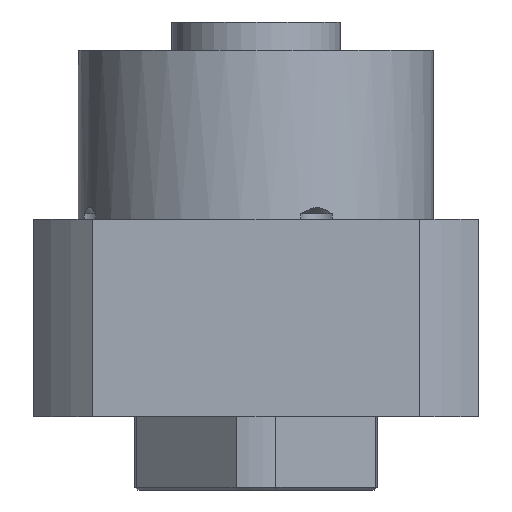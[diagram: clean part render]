
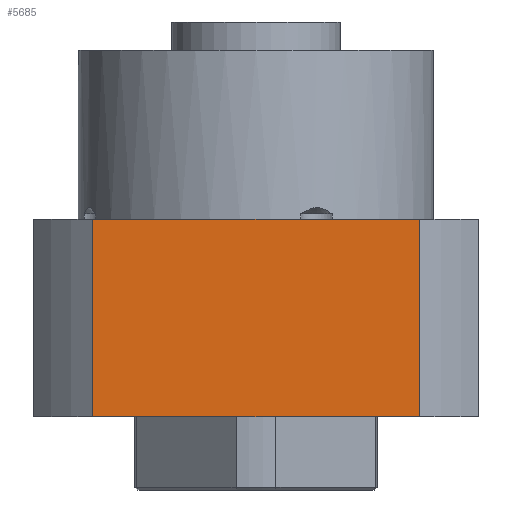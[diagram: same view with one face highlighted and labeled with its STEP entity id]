
A CAD part, front view. The second image highlights one B-rep face of the part: STEP entity #5685.
In plain terms, the highlighted planar face has unit normal (0, -1, 0).
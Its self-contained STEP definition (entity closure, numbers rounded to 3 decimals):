
#363 = VECTOR ( 'NONE', #4845, 1000. ) ;
#424 = CARTESIAN_POINT ( 'NONE',  ( -28.996, -39.5, 14. ) ) ;
#475 = CARTESIAN_POINT ( 'NONE',  ( 0., -39.5, -21. ) ) ;
#1037 = EDGE_CURVE ( 'NONE', #4053, #9197, #2779, .T. ) ;
#1418 = VECTOR ( 'NONE', #10359, 1000. ) ;
#1928 = EDGE_CURVE ( 'NONE', #6264, #9648, #6072, .T. ) ;
#1955 = ORIENTED_EDGE ( 'NONE', *, *, #6524, .F. ) ;
#2779 = LINE ( 'NONE', #10045, #4224 ) ;
#3543 = DIRECTION ( 'NONE',  ( 0., 0., 1. ) ) ;
#3712 = CARTESIAN_POINT ( 'NONE',  ( 28.996, -39.5, 14. ) ) ;
#3778 = DIRECTION ( 'NONE',  ( -1., 0., 0. ) ) ;
#4053 = VERTEX_POINT ( 'NONE', #9488 ) ;
#4224 = VECTOR ( 'NONE', #3543, 1000. ) ;
#4396 = DIRECTION ( 'NONE',  ( -1., 0., 0. ) ) ;
#4614 = LINE ( 'NONE', #10781, #363 ) ;
#4845 = DIRECTION ( 'NONE',  ( -1., 0., 0. ) ) ;
#5534 = FACE_OUTER_BOUND ( 'NONE', #7140, .T. ) ;
#5546 = EDGE_CURVE ( 'NONE', #6264, #9197, #4614, .T. ) ;
#5685 = ADVANCED_FACE ( 'NONE', ( #5534 ), #10940, .F. ) ;
#6072 = LINE ( 'NONE', #3712, #1418 ) ;
#6264 = VERTEX_POINT ( 'NONE', #7443 ) ;
#6333 = ORIENTED_EDGE ( 'NONE', *, *, #5546, .T. ) ;
#6524 = EDGE_CURVE ( 'NONE', #9648, #4053, #8441, .T. ) ;
#7140 = EDGE_LOOP ( 'NONE', ( #6333, #10589, #1955, #9527 ) ) ;
#7443 = CARTESIAN_POINT ( 'NONE',  ( 28.996, -39.5, 14. ) ) ;
#7732 = CARTESIAN_POINT ( 'NONE',  ( -62.512, -39.5, 44. ) ) ;
#7773 = DIRECTION ( 'NONE',  ( 0., 1., 0. ) ) ;
#8296 = CARTESIAN_POINT ( 'NONE',  ( 28.996, -39.5, -21. ) ) ;
#8441 = LINE ( 'NONE', #475, #9104 ) ;
#9104 = VECTOR ( 'NONE', #3778, 1000. ) ;
#9197 = VERTEX_POINT ( 'NONE', #424 ) ;
#9488 = CARTESIAN_POINT ( 'NONE',  ( -28.996, -39.5, -21. ) ) ;
#9527 = ORIENTED_EDGE ( 'NONE', *, *, #1928, .F. ) ;
#9648 = VERTEX_POINT ( 'NONE', #8296 ) ;
#10045 = CARTESIAN_POINT ( 'NONE',  ( -28.996, -39.5, 14. ) ) ;
#10359 = DIRECTION ( 'NONE',  ( 0., 0., -1. ) ) ;
#10589 = ORIENTED_EDGE ( 'NONE', *, *, #1037, .F. ) ;
#10640 = AXIS2_PLACEMENT_3D ( 'NONE', #7732, #7773, #4396 ) ;
#10781 = CARTESIAN_POINT ( 'NONE',  ( 0., -39.5, 14. ) ) ;
#10940 = PLANE ( 'NONE',  #10640 ) ;
